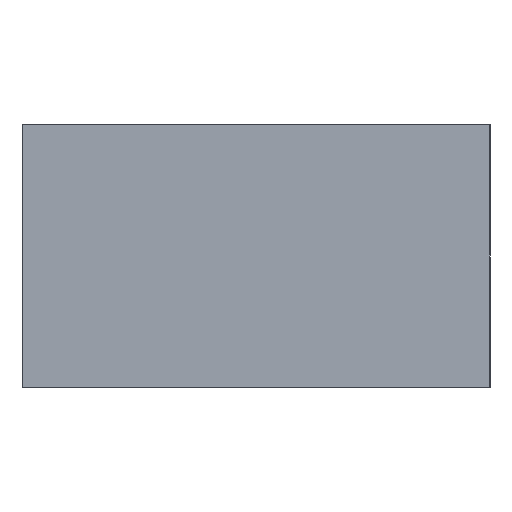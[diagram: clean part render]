
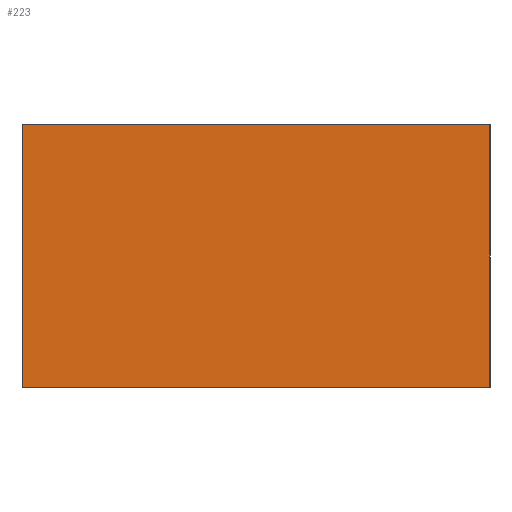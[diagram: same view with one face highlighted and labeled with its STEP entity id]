
A CAD part, left-side view. The second image highlights one B-rep face of the part: STEP entity #223.
In plain terms, the highlighted planar face has unit normal (-1, 0, 0).
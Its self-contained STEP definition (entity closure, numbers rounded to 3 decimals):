
#223=ADVANCED_FACE('',(#481),#483,.T.);
#481=FACE_BOUND('',#482,.T.);
#482=EDGE_LOOP('',(#668,#669,#670,#671));
#483=PLANE('',#484);
#484=AXIS2_PLACEMENT_3D('',#485,#486,#487);
#485=CARTESIAN_POINT('',(-1.,-0.625,0.));
#486=DIRECTION('',(-1.,0.,0.));
#487=DIRECTION('',(0.,0.,1.));
#668=ORIENTED_EDGE('',*,*,#770,.T.);
#669=ORIENTED_EDGE('',*,*,#779,.T.);
#670=ORIENTED_EDGE('',*,*,#771,.F.);
#671=ORIENTED_EDGE('',*,*,#778,.F.);
#770=EDGE_CURVE('',#855,#860,#862,.T.);
#771=EDGE_CURVE('',#863,#864,#865,.T.);
#778=EDGE_CURVE('',#855,#863,#874,.T.);
#779=EDGE_CURVE('',#860,#864,#875,.T.);
#855=VERTEX_POINT('',#1019);
#860=VERTEX_POINT('',#1030);
#862=LINE('',#1034,#1035);
#863=VERTEX_POINT('',#1037);
#864=VERTEX_POINT('',#1038);
#865=LINE('',#1039,#1040);
#874=LINE('',#1062,#1063);
#875=LINE('',#1065,#1066);
#1019=CARTESIAN_POINT('',(-1.,-0.625,0.));
#1030=CARTESIAN_POINT('',(-1.,-0.625,0.7));
#1034=CARTESIAN_POINT('',(-1.,-0.625,0.));
#1035=VECTOR('',#1036,1.);
#1036=DIRECTION('',(0.,0.,1.));
#1037=CARTESIAN_POINT('',(-1.,0.625,0.));
#1038=CARTESIAN_POINT('',(-1.,0.625,0.7));
#1039=CARTESIAN_POINT('',(-1.,0.625,0.));
#1040=VECTOR('',#1041,1.);
#1041=DIRECTION('',(0.,0.,1.));
#1062=CARTESIAN_POINT('',(-1.,-0.625,0.));
#1063=VECTOR('',#1064,1.);
#1064=DIRECTION('',(0.,1.,0.));
#1065=CARTESIAN_POINT('',(-1.,-0.625,0.7));
#1066=VECTOR('',#1067,1.);
#1067=DIRECTION('',(0.,1.,0.));
